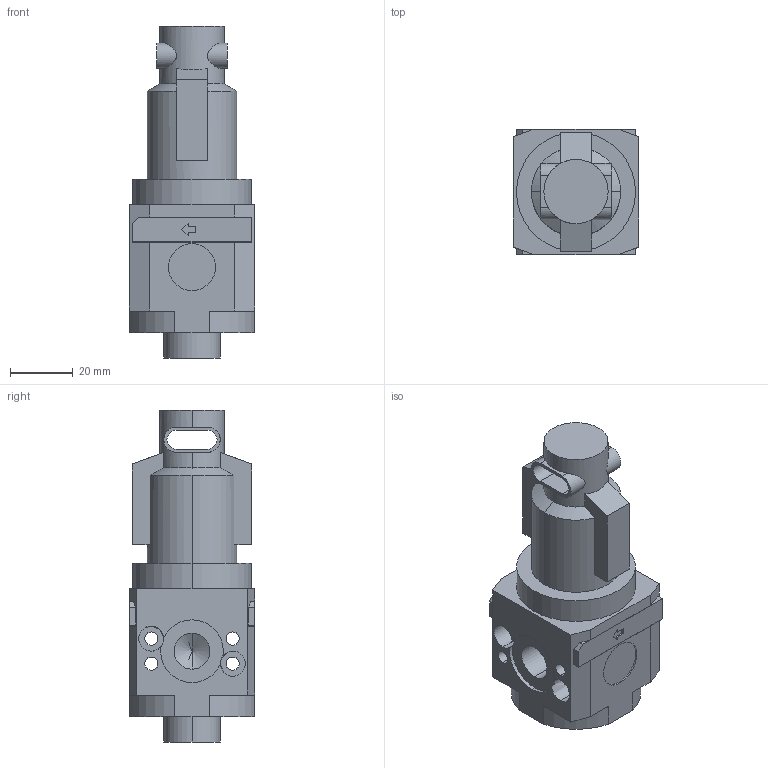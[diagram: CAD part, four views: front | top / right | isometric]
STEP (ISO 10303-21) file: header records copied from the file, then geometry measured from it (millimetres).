
FILE_DESCRIPTION((''),'2;1');
FILE_NAME('I:\DOC-EDP\Lib-3d\FRL\17130B.stp','2003-06-16T14:53:31',('maffial1'),(''),'Autodesk Inventor 7','Autodesk Inventor 7','');
FILE_SCHEMA(('AUTOMOTIVE_DESIGN { 1 0 10303 214 1 1 1 1 }'));
Length unit declared in the file: millimetre
Products named in the file (1): 17130B
Bounding box: 40 x 40 x 106 mm (x, y, z)
Volume: 93414.7 mm3; surface area: 23759.8 mm2
Topology: 1 solids, 3 shells, 154 faces, 404 edges, 264 vertices
Faces by surface type: bspline 69, plane 59, cylinder 22, cone 4
Entity records: 5357 total; most frequent: CARTESIAN_POINT 1654, ORIENTED_EDGE 804, DIRECTION 698, EDGE_CURVE 402, VERTEX_POINT 264, VECTOR 262, LINE 262, AXIS2_PLACEMENT_3D 218
